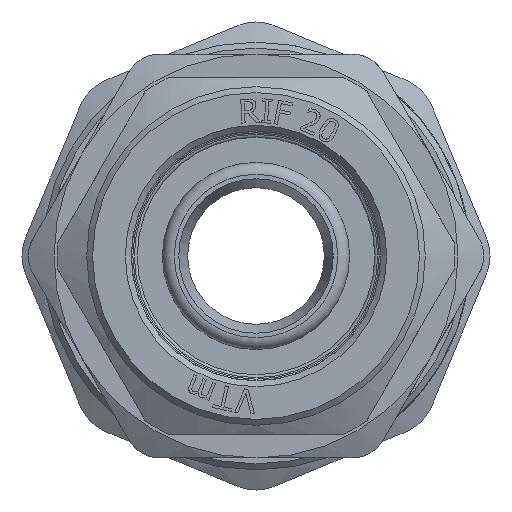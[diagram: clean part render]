
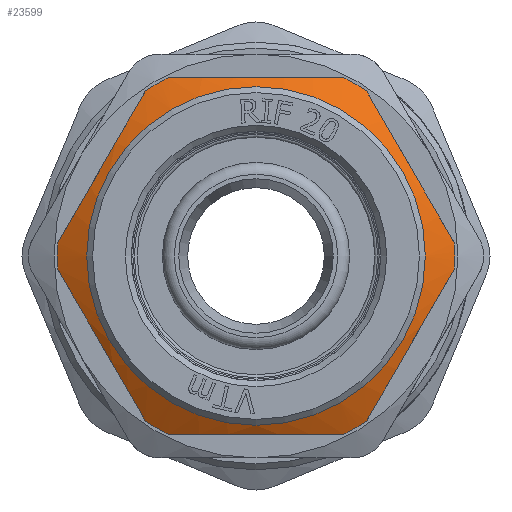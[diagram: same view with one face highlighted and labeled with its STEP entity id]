
A CAD part, left-side view. The second image highlights one B-rep face of the part: STEP entity #23599.
In plain terms, the highlighted conical face has half-angle 60 degrees and reference radius 15.484 mm.
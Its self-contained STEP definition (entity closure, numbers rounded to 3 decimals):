
#92=CONICAL_SURFACE('',#24734,15.484,1.047);
#141=(
BOUNDED_CURVE()
B_SPLINE_CURVE(2,(#52573,#52574,#52575),.UNSPECIFIED.,.F.,.F.)
B_SPLINE_CURVE_WITH_KNOTS((3,3),(0.,1.489),.UNSPECIFIED.)
CURVE()
GEOMETRIC_REPRESENTATION_ITEM()
RATIONAL_B_SPLINE_CURVE((1.,1.114,1.))
REPRESENTATION_ITEM('')
);
#143=(
BOUNDED_CURVE()
B_SPLINE_CURVE(2,(#52586,#52587,#52588),.UNSPECIFIED.,.F.,.F.)
B_SPLINE_CURVE_WITH_KNOTS((3,3),(0.,1.489),.UNSPECIFIED.)
CURVE()
GEOMETRIC_REPRESENTATION_ITEM()
RATIONAL_B_SPLINE_CURVE((1.,1.114,1.))
REPRESENTATION_ITEM('')
);
#145=(
BOUNDED_CURVE()
B_SPLINE_CURVE(2,(#52599,#52600,#52601),.UNSPECIFIED.,.F.,.F.)
B_SPLINE_CURVE_WITH_KNOTS((3,3),(0.,1.489),.UNSPECIFIED.)
CURVE()
GEOMETRIC_REPRESENTATION_ITEM()
RATIONAL_B_SPLINE_CURVE((1.,1.114,1.))
REPRESENTATION_ITEM('')
);
#147=(
BOUNDED_CURVE()
B_SPLINE_CURVE(2,(#52612,#52613,#52614),.UNSPECIFIED.,.F.,.F.)
B_SPLINE_CURVE_WITH_KNOTS((3,3),(0.,1.489),.UNSPECIFIED.)
CURVE()
GEOMETRIC_REPRESENTATION_ITEM()
RATIONAL_B_SPLINE_CURVE((1.,1.114,1.))
REPRESENTATION_ITEM('')
);
#149=(
BOUNDED_CURVE()
B_SPLINE_CURVE(2,(#52625,#52626,#52627),.UNSPECIFIED.,.F.,.F.)
B_SPLINE_CURVE_WITH_KNOTS((3,3),(0.,1.489),.UNSPECIFIED.)
CURVE()
GEOMETRIC_REPRESENTATION_ITEM()
RATIONAL_B_SPLINE_CURVE((1.,1.114,1.))
REPRESENTATION_ITEM('')
);
#151=(
BOUNDED_CURVE()
B_SPLINE_CURVE(2,(#52638,#52639,#52640),.UNSPECIFIED.,.F.,.F.)
B_SPLINE_CURVE_WITH_KNOTS((3,3),(0.,1.489),.UNSPECIFIED.)
CURVE()
GEOMETRIC_REPRESENTATION_ITEM()
RATIONAL_B_SPLINE_CURVE((1.,1.114,1.))
REPRESENTATION_ITEM('')
);
#2563=FACE_OUTER_BOUND('',#3950,.T.);
#3950=EDGE_LOOP('',(#21999,#22000,#22001,#22002,#22003,#22004,#22005,#22006,
#22007,#22008,#22009,#22010,#22011,#22012,#22013,#22014,#22015));
#4186=CIRCLE('',#24264,16.717);
#4187=CIRCLE('',#24265,16.717);
#4188=CIRCLE('',#24267,16.717);
#4189=CIRCLE('',#24269,16.717);
#4190=CIRCLE('',#24271,16.717);
#4191=CIRCLE('',#24273,16.717);
#4526=CIRCLE('',#24732,14.25);
#4527=CIRCLE('',#24733,14.25);
#4528=CIRCLE('',#24735,16.717);
#7509=LINE('',#53476,#8968);
#8968=VECTOR('',#28414,15.484);
#11071=VERTEX_POINT('',#52571);
#11072=VERTEX_POINT('',#52572);
#11075=VERTEX_POINT('',#52584);
#11076=VERTEX_POINT('',#52585);
#11079=VERTEX_POINT('',#52597);
#11080=VERTEX_POINT('',#52598);
#11083=VERTEX_POINT('',#52610);
#11084=VERTEX_POINT('',#52611);
#11087=VERTEX_POINT('',#52623);
#11088=VERTEX_POINT('',#52624);
#11091=VERTEX_POINT('',#52636);
#11092=VERTEX_POINT('',#52637);
#11096=VERTEX_POINT('',#52659);
#11383=VERTEX_POINT('',#53470);
#11384=VERTEX_POINT('',#53472);
#14533=EDGE_CURVE('',#11071,#11072,#141,.T.);
#14537=EDGE_CURVE('',#11075,#11076,#143,.T.);
#14541=EDGE_CURVE('',#11079,#11080,#145,.T.);
#14545=EDGE_CURVE('',#11083,#11084,#147,.T.);
#14549=EDGE_CURVE('',#11087,#11088,#149,.T.);
#14553=EDGE_CURVE('',#11091,#11092,#151,.T.);
#14565=EDGE_CURVE('',#11096,#11087,#4186,.T.);
#14566=EDGE_CURVE('',#11092,#11096,#4187,.T.);
#14567=EDGE_CURVE('',#11088,#11083,#4188,.T.);
#14568=EDGE_CURVE('',#11084,#11079,#4189,.T.);
#14569=EDGE_CURVE('',#11080,#11075,#4190,.T.);
#14570=EDGE_CURVE('',#11076,#11071,#4191,.T.);
#14962=EDGE_CURVE('',#11383,#11384,#4526,.T.);
#14963=EDGE_CURVE('',#11384,#11383,#4527,.T.);
#14964=EDGE_CURVE('',#11383,#11096,#7509,.T.);
#14965=EDGE_CURVE('',#11072,#11091,#4528,.T.);
#21999=ORIENTED_EDGE('',*,*,#14963,.F.);
#22000=ORIENTED_EDGE('',*,*,#14962,.F.);
#22001=ORIENTED_EDGE('',*,*,#14964,.T.);
#22002=ORIENTED_EDGE('',*,*,#14565,.T.);
#22003=ORIENTED_EDGE('',*,*,#14549,.T.);
#22004=ORIENTED_EDGE('',*,*,#14567,.T.);
#22005=ORIENTED_EDGE('',*,*,#14545,.T.);
#22006=ORIENTED_EDGE('',*,*,#14568,.T.);
#22007=ORIENTED_EDGE('',*,*,#14541,.T.);
#22008=ORIENTED_EDGE('',*,*,#14569,.T.);
#22009=ORIENTED_EDGE('',*,*,#14537,.T.);
#22010=ORIENTED_EDGE('',*,*,#14570,.T.);
#22011=ORIENTED_EDGE('',*,*,#14533,.T.);
#22012=ORIENTED_EDGE('',*,*,#14965,.T.);
#22013=ORIENTED_EDGE('',*,*,#14553,.T.);
#22014=ORIENTED_EDGE('',*,*,#14566,.T.);
#22015=ORIENTED_EDGE('',*,*,#14964,.F.);
#23599=ADVANCED_FACE('',(#2563),#92,.T.);
#24264=AXIS2_PLACEMENT_3D('',#52660,#27415,#27416);
#24265=AXIS2_PLACEMENT_3D('',#52661,#27417,#27418);
#24267=AXIS2_PLACEMENT_3D('',#52663,#27421,#27422);
#24269=AXIS2_PLACEMENT_3D('',#52665,#27425,#27426);
#24271=AXIS2_PLACEMENT_3D('',#52667,#27429,#27430);
#24273=AXIS2_PLACEMENT_3D('',#52669,#27433,#27434);
#24732=AXIS2_PLACEMENT_3D('',#53473,#28408,#28409);
#24733=AXIS2_PLACEMENT_3D('',#53474,#28410,#28411);
#24734=AXIS2_PLACEMENT_3D('',#53475,#28412,#28413);
#24735=AXIS2_PLACEMENT_3D('',#53477,#28415,#28416);
#27415=DIRECTION('center_axis',(-1.,0.,0.));
#27416=DIRECTION('ref_axis',(0.,0.,1.));
#27417=DIRECTION('center_axis',(-1.,0.,0.));
#27418=DIRECTION('ref_axis',(0.,0.,1.));
#27421=DIRECTION('center_axis',(-1.,0.,0.));
#27422=DIRECTION('ref_axis',(0.,0.,1.));
#27425=DIRECTION('center_axis',(-1.,0.,0.));
#27426=DIRECTION('ref_axis',(0.,0.,1.));
#27429=DIRECTION('center_axis',(-1.,0.,0.));
#27430=DIRECTION('ref_axis',(0.,0.,1.));
#27433=DIRECTION('center_axis',(-1.,0.,0.));
#27434=DIRECTION('ref_axis',(0.,0.,1.));
#28408=DIRECTION('center_axis',(-1.,0.,0.));
#28409=DIRECTION('ref_axis',(0.,0.,1.));
#28410=DIRECTION('center_axis',(-1.,0.,0.));
#28411=DIRECTION('ref_axis',(0.,0.,1.));
#28412=DIRECTION('center_axis',(1.,0.,0.));
#28413=DIRECTION('ref_axis',(0.,-1.,0.));
#28414=DIRECTION('',(0.5,0.866,0.));
#28415=DIRECTION('center_axis',(-1.,0.,0.));
#28416=DIRECTION('ref_axis',(0.,0.,1.));
#52571=CARTESIAN_POINT('',(-24.057,-7.38,15.));
#52572=CARTESIAN_POINT('',(-24.057,7.38,15.));
#52573=CARTESIAN_POINT('Ctrl Pts',(-24.057,-7.38,
15.));
#52574=CARTESIAN_POINT('Ctrl Pts',(-25.938,0.,
15.));
#52575=CARTESIAN_POINT('Ctrl Pts',(-24.057,7.38,15.));
#52584=CARTESIAN_POINT('',(-24.057,-16.681,1.108));
#52585=CARTESIAN_POINT('',(-24.057,-9.3,13.892));
#52586=CARTESIAN_POINT('Ctrl Pts',(-24.057,-16.681,
1.108));
#52587=CARTESIAN_POINT('Ctrl Pts',(-25.938,-12.99,
7.5));
#52588=CARTESIAN_POINT('Ctrl Pts',(-24.057,-9.3,
13.892));
#52597=CARTESIAN_POINT('',(-24.057,-9.3,-13.892));
#52598=CARTESIAN_POINT('',(-24.057,-16.681,-1.108));
#52599=CARTESIAN_POINT('Ctrl Pts',(-24.057,-9.3,
-13.892));
#52600=CARTESIAN_POINT('Ctrl Pts',(-25.938,-12.99,
-7.5));
#52601=CARTESIAN_POINT('Ctrl Pts',(-24.057,-16.681,-1.108));
#52610=CARTESIAN_POINT('',(-24.057,7.38,-15.));
#52611=CARTESIAN_POINT('',(-24.057,-7.38,-15.));
#52612=CARTESIAN_POINT('Ctrl Pts',(-24.057,7.38,-15.));
#52613=CARTESIAN_POINT('Ctrl Pts',(-25.938,0.,
-15.));
#52614=CARTESIAN_POINT('Ctrl Pts',(-24.057,-7.38,-15.));
#52623=CARTESIAN_POINT('',(-24.057,16.681,-1.108));
#52624=CARTESIAN_POINT('',(-24.057,9.3,-13.892));
#52625=CARTESIAN_POINT('Ctrl Pts',(-24.057,16.681,-1.108));
#52626=CARTESIAN_POINT('Ctrl Pts',(-25.938,12.99,-7.5));
#52627=CARTESIAN_POINT('Ctrl Pts',(-24.057,9.3,-13.892));
#52636=CARTESIAN_POINT('',(-24.057,9.3,13.892));
#52637=CARTESIAN_POINT('',(-24.057,16.681,1.108));
#52638=CARTESIAN_POINT('Ctrl Pts',(-24.057,9.3,13.892));
#52639=CARTESIAN_POINT('Ctrl Pts',(-25.938,12.99,7.5));
#52640=CARTESIAN_POINT('Ctrl Pts',(-24.057,16.681,1.108));
#52659=CARTESIAN_POINT('',(-24.057,16.717,0.));
#52660=CARTESIAN_POINT('Origin',(-24.057,0.,
0.));
#52661=CARTESIAN_POINT('Origin',(-24.057,0.,
0.));
#52663=CARTESIAN_POINT('Origin',(-24.057,0.,
0.));
#52665=CARTESIAN_POINT('Origin',(-24.057,0.,
0.));
#52667=CARTESIAN_POINT('Origin',(-24.057,0.,
0.));
#52669=CARTESIAN_POINT('Origin',(-24.057,0.,
0.));
#53470=CARTESIAN_POINT('',(-25.481,14.25,0.));
#53472=CARTESIAN_POINT('',(-25.481,-14.25,0.));
#53473=CARTESIAN_POINT('Origin',(-25.481,0.,
0.));
#53474=CARTESIAN_POINT('Origin',(-25.481,0.,
0.));
#53475=CARTESIAN_POINT('Origin',(-24.769,0.,
0.));
#53476=CARTESIAN_POINT('',(-24.769,15.484,0.));
#53477=CARTESIAN_POINT('Origin',(-24.057,0.,
0.));
